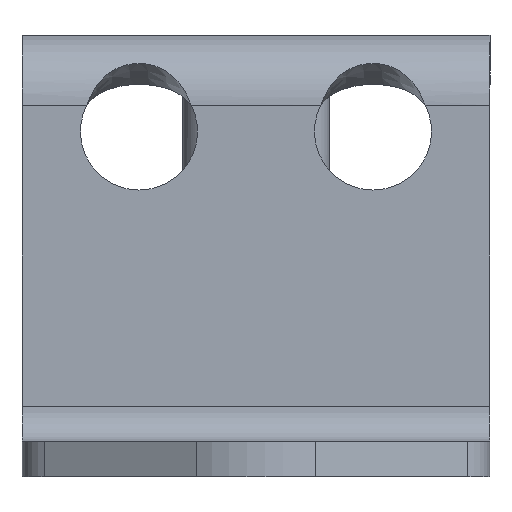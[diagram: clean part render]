
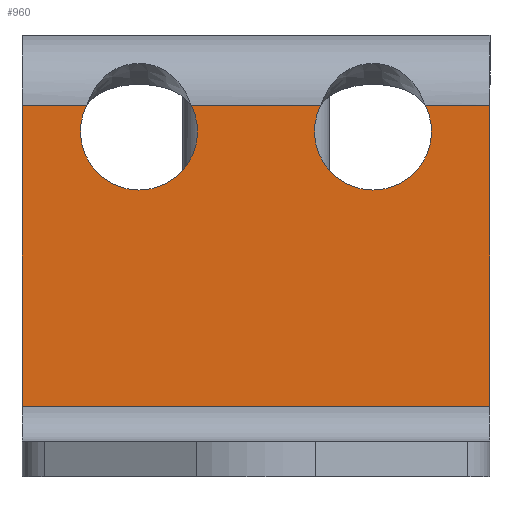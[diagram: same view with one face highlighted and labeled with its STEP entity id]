
A CAD part, left-side view. The second image highlights one B-rep face of the part: STEP entity #960.
In plain terms, the highlighted planar face has unit normal (-1, 0, 0).
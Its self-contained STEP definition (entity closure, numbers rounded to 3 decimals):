
#81=FACE_OUTER_BOUND('',#138,.T.);
#138=EDGE_LOOP('',(#775,#776,#777,#778,#779,#780,#781,#782));
#185=CIRCLE('',#1049,10.);
#187=CIRCLE('',#1052,10.);
#260=LINE('',#1766,#349);
#261=LINE('',#1768,#350);
#262=LINE('',#1770,#351);
#263=LINE('',#1772,#352);
#264=LINE('',#1773,#353);
#265=LINE('',#1774,#354);
#349=VECTOR('',#1252,10.);
#350=VECTOR('',#1253,8.64);
#351=VECTOR('',#1254,10.);
#352=VECTOR('',#1255,8.64);
#353=VECTOR('',#1256,10.);
#354=VECTOR('',#1257,10.);
#443=VERTEX_POINT('',#1674);
#444=VERTEX_POINT('',#1676);
#449=VERTEX_POINT('',#1747);
#450=VERTEX_POINT('',#1749);
#451=VERTEX_POINT('',#1765);
#452=VERTEX_POINT('',#1767);
#453=VERTEX_POINT('',#1769);
#454=VERTEX_POINT('',#1771);
#555=EDGE_CURVE('',#443,#444,#185,.T.);
#563=EDGE_CURVE('',#449,#450,#187,.T.);
#565=EDGE_CURVE('',#444,#451,#260,.T.);
#566=EDGE_CURVE('',#451,#452,#261,.T.);
#567=EDGE_CURVE('',#452,#453,#262,.T.);
#568=EDGE_CURVE('',#454,#453,#263,.T.);
#569=EDGE_CURVE('',#454,#449,#264,.T.);
#570=EDGE_CURVE('',#450,#443,#265,.T.);
#775=ORIENTED_EDGE('',*,*,#555,.T.);
#776=ORIENTED_EDGE('',*,*,#565,.T.);
#777=ORIENTED_EDGE('',*,*,#566,.T.);
#778=ORIENTED_EDGE('',*,*,#567,.T.);
#779=ORIENTED_EDGE('',*,*,#568,.F.);
#780=ORIENTED_EDGE('',*,*,#569,.T.);
#781=ORIENTED_EDGE('',*,*,#563,.T.);
#782=ORIENTED_EDGE('',*,*,#570,.T.);
#917=PLANE('',#1054);
#960=ADVANCED_FACE('',(#81),#917,.T.);
#1049=AXIS2_PLACEMENT_3D('',#1689,#1236,#1237);
#1052=AXIS2_PLACEMENT_3D('',#1762,#1246,#1247);
#1054=AXIS2_PLACEMENT_3D('',#1764,#1250,#1251);
#1236=DIRECTION('center_axis',(1.,0.,0.));
#1237=DIRECTION('ref_axis',(0.,0.,1.));
#1246=DIRECTION('center_axis',(1.,0.,0.));
#1247=DIRECTION('ref_axis',(0.,0.,1.));
#1250=DIRECTION('center_axis',(-1.,0.,0.));
#1251=DIRECTION('ref_axis',(0.,0.,1.));
#1252=DIRECTION('',(0.,1.,0.));
#1253=DIRECTION('',(0.,0.,-1.));
#1254=DIRECTION('',(0.,-1.,0.));
#1255=DIRECTION('',(0.,0.,-1.));
#1256=DIRECTION('',(0.,1.,0.));
#1257=DIRECTION('',(0.,1.,0.));
#1674=CARTESIAN_POINT('',(-6.,11.045,63.45));
#1676=CARTESIAN_POINT('',(-6.,28.955,63.45));
#1689=CARTESIAN_POINT('Origin',(-6.,20.,59.));
#1747=CARTESIAN_POINT('',(-6.,-28.955,63.45));
#1749=CARTESIAN_POINT('',(-6.,-11.045,63.45));
#1762=CARTESIAN_POINT('Origin',(-6.,-20.,59.));
#1764=CARTESIAN_POINT('Origin',(-6.,0.,36.939));
#1765=CARTESIAN_POINT('',(-6.,40.,63.45));
#1766=CARTESIAN_POINT('',(-6.,-20.,63.45));
#1767=CARTESIAN_POINT('',(-6.,40.,12.));
#1768=CARTESIAN_POINT('',(-6.,40.,-15.143));
#1769=CARTESIAN_POINT('',(-6.,-40.,12.));
#1770=CARTESIAN_POINT('',(-6.,0.,12.));
#1771=CARTESIAN_POINT('',(-6.,-40.,63.45));
#1772=CARTESIAN_POINT('',(-6.,-40.,-15.143));
#1773=CARTESIAN_POINT('',(-6.,-20.,63.45));
#1774=CARTESIAN_POINT('',(-6.,-20.,63.45));
